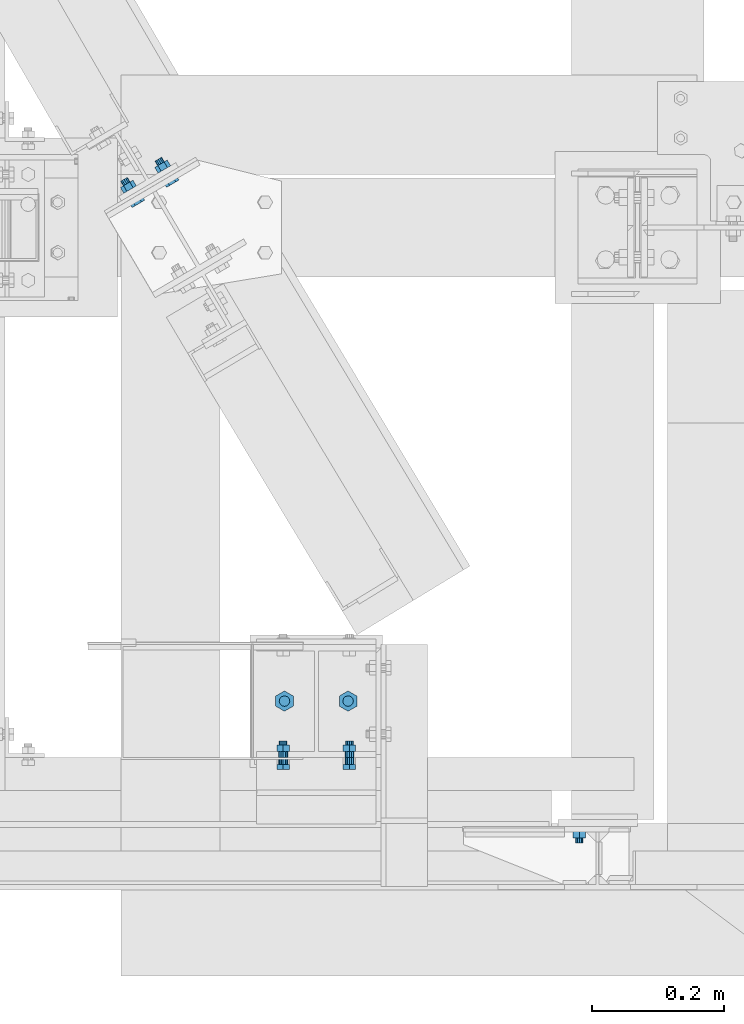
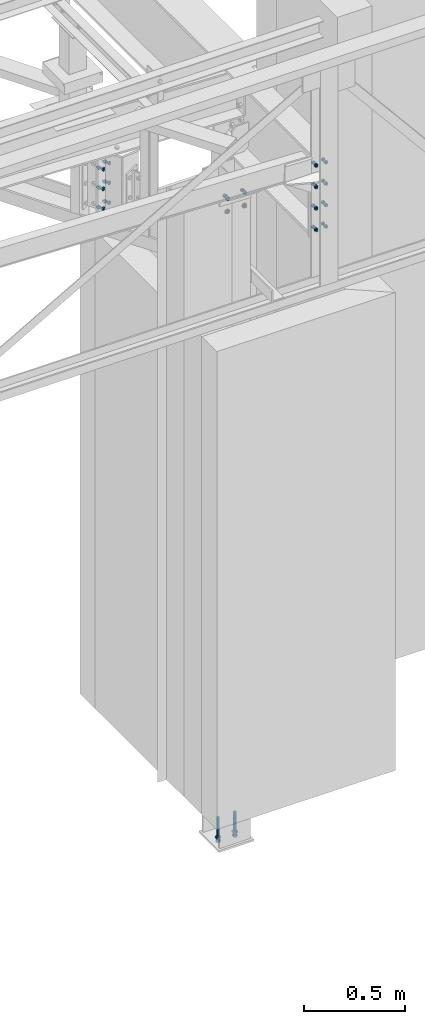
# One storey, part 11 of 3134: 4 mechanical fasteners, 3 elements without a shape of their own.
"""IFC2X3 building model written with IfcOpenShell, lengths in millimetres."""

from ifc_helpers import new_model, si_unit, frame, origin_with_axes, place, context, subcontext, project, spatial, faceted_brep, source, transform, mapped, material, type_object, element, aggregate, save


model = new_model("IFC2X3")

# Units and contexts
model_context = context("Model", 3, precision=1e-05, world=origin_with_axes())
body_context = subcontext(model_context, "Body", "Model", "MODEL_VIEW")
ifc_project = project(units=[si_unit("LENGTHUNIT", "METRE", prefix="MILLI"), si_unit("AREAUNIT", "SQUARE_METRE"), si_unit("VOLUMEUNIT", "CUBIC_METRE"), si_unit("MASSUNIT", "GRAM", prefix="KILO"), si_unit("TIMEUNIT", "SECOND"), si_unit("PLANEANGLEUNIT", "RADIAN"), si_unit("SOLIDANGLEUNIT", "STERADIAN"), si_unit("THERMODYNAMICTEMPERATUREUNIT", "DEGREE_CELSIUS"), si_unit("LUMINOUSINTENSITYUNIT", "LUMEN")], contexts=[model_context])

# Site, building, storey
site_placement = place(None, origin_with_axes())
site = spatial("IfcSite", under=ifc_project, at=site_placement, CompositionType="ELEMENT")
building_placement = place(site_placement, origin_with_axes())
building = spatial("IfcBuilding", under=site, at=building_placement, Name="Undefined", CompositionType="ELEMENT")
storey_placement = place(building_placement, origin_with_axes())
storey = spatial("IfcBuildingStorey", under=building, at=storey_placement, Name="Undefined", CompositionType="ELEMENT", Elevation=0.0)

# Assembly, mechanical fastener
assembly_1_placement = place(storey_placement, origin_with_axes())
assembly_1 = element("IfcElementAssembly", 1, at=assembly_1_placement, inside=storey, Name="HEA160", AssemblyPlace="NOTDEFINED", PredefinedType="RIGID_FRAME")
ifc_material_1 = material(Name="8.8")
mechanical_fastener_type = type_object("IfcMechanicalFastenerType", Name="Bolt assembly")
shared_shape_1 = source(origin_with_axes(), body_context, "Body", "Brep", [
    faceted_brep([(10.9696551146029, -17.0000000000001, 0.0), (5.48482755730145, -17.0000000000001, 9.5), (-5.48482755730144, -17.0000000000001, 9.5), (-10.9696551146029, -17.0000000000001, 1.34339530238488e-15), (-5.48482755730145, -17.0000000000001, -9.5), (5.48482755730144, -17.0000000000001, -9.50000000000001), (5.48482755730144, -9.00000000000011, -9.50000000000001), (-5.48482755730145, -9.00000000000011, -9.5), (-10.9696551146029, -9.00000000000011, 1.34339530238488e-15), (-5.48482755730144, -9.00000000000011, 9.5), (5.48482755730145, -9.00000000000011, 9.5), (10.9696551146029, -9.00000000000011, 0.0), (6.0, -9.00000000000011, 0.0), (5.19615242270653, -9.00000000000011, 3.00000000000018), (2.99999999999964, -9.00000000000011, 5.19615242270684), (-6.21801588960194e-13, -9.00000000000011, 6.0), (-3.00000000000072, -9.00000000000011, 5.19615242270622), (-5.19615242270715, -9.00000000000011, 2.9999999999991), (-6.0, -9.00000000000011, -1.24360317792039e-12), (-5.19615242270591, -9.00000000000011, -3.00000000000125), (-2.99999999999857, -9.00000000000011, -5.19615242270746), (1.85874342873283e-12, -9.00000000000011, -6.0), (3.00000000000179, -9.00000000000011, -5.1961524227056), (5.19615242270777, -9.00000000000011, -2.99999999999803), (5.19615242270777, 26.0, -2.99999999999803), (3.00000000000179, 26.0, -5.1961524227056), (1.85874342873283e-12, 26.0, -6.0), (-2.99999999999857, 26.0, -5.19615242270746), (-5.19615242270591, 26.0, -3.00000000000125), (-6.0, 26.0, -1.24360317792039e-12), (-5.19615242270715, 26.0, 2.9999999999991), (-3.00000000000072, 26.0, 5.19615242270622), (-6.21801588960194e-13, 26.0, 6.0), (2.99999999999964, 26.0, 5.19615242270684), (5.19615242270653, 26.0, 3.00000000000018), (6.0, 26.0, 0.0), (10.9696551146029, 8.0, 0.0), (5.48482755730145, 8.0, 9.5), (-5.48482755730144, 8.0, 9.5), (-10.9696551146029, 8.0, 1.34339530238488e-15), (-5.48482755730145, 8.0, -9.5), (5.48482755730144, 8.0, -9.50000000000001), (5.48482755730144, 18.0, -9.50000000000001), (-5.48482755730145, 18.0, -9.5), (-10.9696551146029, 18.0, 1.34339530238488e-15), (-5.48482755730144, 18.0, 9.5), (5.48482755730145, 18.0, 9.5), (10.9696551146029, 18.0, 0.0)], [[[0, 1, 2, 3, 4, 5]], [[6, 7, 8, 9, 10, 11]], [[0, 11, 10, 1]], [[1, 10, 9, 2]], [[2, 9, 8, 3]], [[3, 8, 7, 4]], [[4, 7, 6, 5]], [[5, 6, 11, 0]], [[12, 13, 14, 15, 16, 17, 18, 19, 20, 21, 22, 23]], [[24, 25, 26, 27, 28, 29, 30, 31, 32, 33, 34, 35]], [[12, 35, 34, 13]], [[13, 34, 33, 14]], [[14, 33, 32, 15]], [[15, 32, 31, 16]], [[16, 31, 30, 17]], [[17, 30, 29, 18]], [[18, 29, 28, 19]], [[19, 28, 27, 20]], [[20, 27, 26, 21]], [[21, 26, 25, 22]], [[22, 25, 24, 23]], [[23, 24, 35, 12]], [[36, 37, 38, 39, 40, 41]], [[42, 43, 44, 45, 46, 47]], [[36, 47, 46, 37]], [[37, 46, 45, 38]], [[38, 45, 44, 39]], [[39, 44, 43, 40]], [[40, 43, 42, 41]], [[41, 42, 47, 36]]]),
    faceted_brep([(7.0, -0.1, 0.0), (6.06217782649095, -0.1, 3.50000000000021), (3.49999999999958, -0.1, 6.06217782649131), (-7.25435187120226e-13, -0.1, 7.0), (-3.50000000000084, -0.1, 6.06217782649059), (-6.06217782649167, -0.1, 3.49999999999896), (-7.0, -0.1, -1.45087037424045e-12), (-6.06217782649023, -0.1, -3.50000000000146), (-3.49999999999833, -0.1, -6.06217782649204), (2.1685340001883e-12, -0.1, -7.0), (3.50000000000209, -0.1, -6.06217782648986), (6.0621778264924, -0.1, -3.4999999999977), (6.0621778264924, 8.0000000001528, -3.4999999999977), (3.50000000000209, 8.0000000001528, -6.06217782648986), (2.1685340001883e-12, 8.0000000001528, -7.0), (-3.49999999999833, 8.0000000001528, -6.06217782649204), (-6.06217782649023, 8.0000000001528, -3.50000000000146), (-7.0, 8.0000000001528, -1.45087037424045e-12), (-6.06217782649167, 8.0000000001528, 3.49999999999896), (-3.50000000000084, 8.0000000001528, 6.06217782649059), (-7.25435187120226e-13, 8.0000000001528, 7.0), (3.49999999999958, 8.0000000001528, 6.06217782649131), (6.06217782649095, 8.0000000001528, 3.50000000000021), (7.0, 8.0000000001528, 0.0), (7.0, -8.90000000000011, 0.0), (6.06217782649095, -8.90000000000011, 3.50000000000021), (3.49999999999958, -8.90000000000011, 6.06217782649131), (-7.25435187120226e-13, -8.90000000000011, 7.0), (-3.50000000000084, -8.90000000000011, 6.06217782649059), (-6.06217782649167, -8.90000000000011, 3.49999999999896), (-7.0, -8.90000000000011, -1.45087037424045e-12), (-6.06217782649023, -8.90000000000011, -3.50000000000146), (-3.49999999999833, -8.90000000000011, -6.06217782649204), (2.1685340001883e-12, -8.90000000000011, -7.0), (3.50000000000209, -8.90000000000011, -6.06217782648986), (6.0621778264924, -8.90000000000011, -3.4999999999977), (6.0621778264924, 0.0999999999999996, -3.4999999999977), (3.50000000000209, 0.0999999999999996, -6.06217782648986), (2.1685340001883e-12, 0.0999999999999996, -7.0), (-3.49999999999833, 0.0999999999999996, -6.06217782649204), (-6.06217782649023, 0.0999999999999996, -3.50000000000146), (-7.0, 0.0999999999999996, -1.45087037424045e-12), (-6.06217782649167, 0.0999999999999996, 3.49999999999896), (-3.50000000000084, 0.0999999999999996, 6.06217782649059), (-7.25435187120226e-13, 0.0999999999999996, 7.0), (3.49999999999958, 0.0999999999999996, 6.06217782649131), (6.06217782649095, 0.0999999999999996, 3.50000000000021), (7.0, 0.0999999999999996, 0.0)], [[[0, 1, 2, 3, 4, 5, 6, 7, 8, 9, 10, 11]], [[12, 13, 14, 15, 16, 17, 18, 19, 20, 21, 22, 23]], [[0, 23, 22, 1]], [[1, 22, 21, 2]], [[2, 21, 20, 3]], [[3, 20, 19, 4]], [[4, 19, 18, 5]], [[5, 18, 17, 6]], [[6, 17, 16, 7]], [[7, 16, 15, 8]], [[8, 15, 14, 9]], [[9, 14, 13, 10]], [[10, 13, 12, 11]], [[11, 12, 23, 0]], [[24, 25, 26, 27, 28, 29, 30, 31, 32, 33, 34, 35]], [[36, 37, 38, 39, 40, 41, 42, 43, 44, 45, 46, 47]], [[24, 47, 46, 25]], [[25, 46, 45, 26]], [[26, 45, 44, 27]], [[27, 44, 43, 28]], [[28, 43, 42, 29]], [[29, 42, 41, 30]], [[30, 41, 40, 31]], [[31, 40, 39, 32]], [[32, 39, 38, 33]], [[33, 38, 37, 34]], [[34, 37, 36, 35]], [[35, 36, 47, 24]]]),
])
mechanical_fastener_1_placement = place(assembly_1_placement, frame((8532.91634965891, 10980.3242627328, 3170.0), z_axis=(0.0, 0.0, 1.0), x_axis=(0.862153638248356, 0.506646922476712, 0.0)))
mechanical_fastener_1 = element("IfcMechanicalFastener", 2, at=mechanical_fastener_1_placement, type_object=mechanical_fastener_type, material=ifc_material_1, Name="Bolt assembly", NominalDiameter=12.0, NominalLength=35.0, context=body_context, shape_type="MappedRepresentation", body=[
    mapped(shared_shape_1, transform((0.0, 0.0, -120.0))),
    mapped(shared_shape_1, transform((60.0000000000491, 0.0, -120.0))),
    mapped(shared_shape_1, transform((0.0, 0.0, 0.0))),
    mapped(shared_shape_1, transform((59.9999999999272, 0.0, 5.40239852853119e-10))),
    mapped(shared_shape_1, transform((0.0, 0.0, 120.0))),
    mapped(shared_shape_1, transform((60.0000000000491, 0.0, 120.0))),
])
aggregate(assembly_1, [mechanical_fastener_1])

assembly_2_placement = place(storey_placement, origin_with_axes())
assembly_2 = element("IfcElementAssembly", 3, at=assembly_2_placement, inside=storey, Name="HEA180", AssemblyPlace="NOTDEFINED", PredefinedType="RIGID_FRAME")
shared_shape_2 = source(origin_with_axes(), body_context, "Body", "Brep", [
    faceted_brep([(10.9696551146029, -18.0, 0.0), (5.48482755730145, -18.0, 9.5), (-5.48482755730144, -18.0, 9.5), (-10.9696551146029, -18.0, 1.34339530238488e-15), (-5.48482755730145, -18.0, -9.5), (5.48482755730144, -18.0, -9.50000000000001), (5.48482755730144, -10.0, -9.50000000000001), (-5.48482755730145, -10.0, -9.5), (-10.9696551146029, -10.0, 1.34339530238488e-15), (-5.48482755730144, -10.0, 9.5), (5.48482755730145, -10.0, 9.5), (10.9696551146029, -10.0, 0.0), (6.0, -10.0, 0.0), (5.19615242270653, -10.0, 3.00000000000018), (2.99999999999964, -10.0, 5.19615242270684), (-6.21801588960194e-13, -10.0, 6.0), (-3.00000000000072, -10.0, 5.19615242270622), (-5.19615242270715, -10.0, 2.9999999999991), (-6.0, -10.0, -1.24360317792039e-12), (-5.19615242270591, -10.0, -3.00000000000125), (-2.99999999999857, -10.0, -5.19615242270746), (1.85874342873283e-12, -10.0, -6.0), (3.00000000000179, -10.0, -5.1961524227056), (5.19615242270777, -10.0, -2.99999999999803), (5.19615242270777, 24.9999999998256, -2.99999999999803), (3.00000000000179, 24.9999999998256, -5.1961524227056), (1.85874342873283e-12, 24.9999999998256, -6.0), (-2.99999999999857, 24.9999999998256, -5.19615242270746), (-5.19615242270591, 24.9999999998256, -3.00000000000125), (-6.0, 24.9999999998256, -1.24360317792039e-12), (-5.19615242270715, 24.9999999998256, 2.9999999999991), (-3.00000000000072, 24.9999999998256, 5.19615242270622), (-6.21801588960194e-13, 24.9999999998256, 6.0), (2.99999999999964, 24.9999999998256, 5.19615242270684), (5.19615242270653, 24.9999999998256, 3.00000000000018), (6.0, 24.9999999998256, 0.0), (10.9696551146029, 9.5, 0.0), (5.48482755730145, 9.5, 9.5), (-5.48482755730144, 9.5, 9.5), (-10.9696551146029, 9.5, 1.34339530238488e-15), (-5.48482755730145, 9.5, -9.5), (5.48482755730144, 9.5, -9.50000000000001), (5.48482755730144, 19.5, -9.50000000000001), (-5.48482755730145, 19.5, -9.5), (-10.9696551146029, 19.5, 1.34339530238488e-15), (-5.48482755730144, 19.5, 9.5), (5.48482755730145, 19.5, 9.5), (10.9696551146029, 19.5, 0.0)], [[[0, 1, 2, 3, 4, 5]], [[6, 7, 8, 9, 10, 11]], [[0, 11, 10, 1]], [[1, 10, 9, 2]], [[2, 9, 8, 3]], [[3, 8, 7, 4]], [[4, 7, 6, 5]], [[5, 6, 11, 0]], [[12, 13, 14, 15, 16, 17, 18, 19, 20, 21, 22, 23]], [[24, 25, 26, 27, 28, 29, 30, 31, 32, 33, 34, 35]], [[12, 35, 34, 13]], [[13, 34, 33, 14]], [[14, 33, 32, 15]], [[15, 32, 31, 16]], [[16, 31, 30, 17]], [[17, 30, 29, 18]], [[18, 29, 28, 19]], [[19, 28, 27, 20]], [[20, 27, 26, 21]], [[21, 26, 25, 22]], [[22, 25, 24, 23]], [[23, 24, 35, 12]], [[36, 37, 38, 39, 40, 41]], [[42, 43, 44, 45, 46, 47]], [[36, 47, 46, 37]], [[37, 46, 45, 38]], [[38, 45, 44, 39]], [[39, 44, 43, 40]], [[40, 43, 42, 41]], [[41, 42, 47, 36]]]),
    faceted_brep([(14.0, -9.9, 0.0), (13.4671567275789, -9.9, 2.6787840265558), (11.9497474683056, -9.9, 4.94974746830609), (9.67878402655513, -9.9, 6.46715672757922), (-7.00000000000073, -9.9, 7.0), (-10.5000000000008, -9.9, 6.06217782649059), (-13.0621778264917, -9.9, 3.49999999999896), (-14.0, -9.9, -1.45087037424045e-12), (-13.0621778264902, -9.9, -3.50000000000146), (-10.4999999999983, -9.9, -6.06217782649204), (-6.99999999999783, -9.9, -7.0), (7.00000000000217, -9.9, -7.0), (10.5000000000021, -9.9, -6.06217782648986), (13.0621778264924, -9.9, -3.4999999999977), (14.0, 0.0999989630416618, 0.0), (13.0621778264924, 0.0999989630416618, -3.4999999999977), (10.5000000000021, 0.0999989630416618, -6.06217782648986), (7.00000000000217, 0.0999989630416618, -7.0), (-6.99999999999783, 0.0999989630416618, -7.0), (-10.4999999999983, 0.0999989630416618, -6.06217782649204), (-13.0621778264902, 0.0999989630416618, -3.50000000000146), (-14.0, 0.0999989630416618, -1.45087037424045e-12), (-13.0621778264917, 0.0999989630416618, 3.49999999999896), (-10.5000000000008, 0.0999989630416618, 6.06217782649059), (-7.00000000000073, 0.0999989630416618, 7.0), (9.67878402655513, 0.0999989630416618, 6.46715672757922), (11.9497474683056, 0.0999989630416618, 4.94974746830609), (13.4671567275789, 0.0999989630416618, 2.6787840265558), (7.0, -0.1, 0.0), (6.06217782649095, -0.1, 3.50000000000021), (3.49999999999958, -0.1, 6.06217782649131), (-7.25435187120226e-13, -0.1, 7.0), (-3.50000000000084, -0.1, 6.06217782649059), (-6.06217782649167, -0.1, 3.49999999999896), (-7.0, -0.1, -1.45087037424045e-12), (-6.06217782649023, -0.1, -3.50000000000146), (-3.49999999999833, -0.1, -6.06217782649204), (2.1685340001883e-12, -0.1, -7.0), (3.50000000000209, -0.1, -6.06217782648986), (6.0621778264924, -0.1, -3.4999999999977), (6.0621778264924, 9.5, -3.4999999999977), (3.50000000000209, 9.5, -6.06217782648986), (2.1685340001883e-12, 9.5, -7.0), (-3.49999999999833, 9.5, -6.06217782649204), (-6.06217782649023, 9.5, -3.50000000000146), (-7.0, 9.5, -1.45087037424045e-12), (-6.06217782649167, 9.5, 3.49999999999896), (-3.50000000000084, 9.5, 6.06217782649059), (-7.25435187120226e-13, 9.5, 7.0), (3.49999999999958, 9.5, 6.06217782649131), (6.06217782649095, 9.5, 3.50000000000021), (7.0, 9.5, 0.0)], [[[0, 1, 2, 3, 4, 5, 6, 7, 8, 9, 10, 11, 12, 13]], [[14, 15, 16, 17, 18, 19, 20, 21, 22, 23, 24, 25, 26, 27]], [[0, 14, 27, 1]], [[1, 27, 26, 2]], [[2, 26, 25, 3]], [[3, 25, 24, 4]], [[4, 24, 23, 5]], [[5, 23, 22, 6]], [[6, 22, 21, 7]], [[7, 21, 20, 8]], [[8, 20, 19, 9]], [[9, 19, 18, 10]], [[10, 18, 17, 11]], [[11, 17, 16, 12]], [[12, 16, 15, 13]], [[13, 15, 14, 0]], [[28, 29, 30, 31, 32, 33, 34, 35, 36, 37, 38, 39]], [[40, 41, 42, 43, 44, 45, 46, 47, 48, 49, 50, 51]], [[28, 51, 50, 29]], [[29, 50, 49, 30]], [[30, 49, 48, 31]], [[31, 48, 47, 32]], [[32, 47, 46, 33]], [[33, 46, 45, 34]], [[34, 45, 44, 35]], [[35, 44, 43, 36]], [[36, 43, 42, 37]], [[37, 42, 41, 38]], [[38, 41, 40, 39]], [[39, 40, 51, 28]]]),
])
mechanical_fastener_2_placement = place(assembly_2_placement, frame((8810.0, 10129.5, 3551.53519646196), z_axis=(-1.0, 0.0, 0.0), x_axis=(0.0, 0.0, 1.0)))
mechanical_fastener_2 = element("IfcMechanicalFastener", 4, at=mechanical_fastener_2_placement, type_object=mechanical_fastener_type, material=ifc_material_1, Name="Bolt assembly", NominalDiameter=12.0, NominalLength=35.0, context=body_context, shape_type="MappedRepresentation", body=[
    mapped(shared_shape_2, transform((0.0, 0.0, -50.0))),
    mapped(shared_shape_2, transform((0.0, 0.0, 50.0))),
])

assembly_3_placement = place(storey_placement, origin_with_axes())
assembly_3 = element("IfcElementAssembly", 5, at=assembly_3_placement, inside=storey, Name="UPN100", AssemblyPlace="NOTDEFINED", PredefinedType="RIGID_FRAME")
shared_shape_3 = source(origin_with_axes(), body_context, "Body", "Brep", [
    faceted_brep([(10.9696551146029, -18.0, 0.0), (5.48482755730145, -18.0, 9.5), (-5.48482755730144, -18.0, 9.5), (-10.9696551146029, -18.0, 1.34339530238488e-15), (-5.48482755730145, -18.0, -9.5), (5.48482755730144, -18.0, -9.50000000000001), (5.48482755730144, -10.0, -9.50000000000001), (-5.48482755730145, -10.0, -9.5), (-10.9696551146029, -10.0, 1.34339530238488e-15), (-5.48482755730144, -10.0, 9.5), (5.48482755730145, -10.0, 9.5), (10.9696551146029, -10.0, 0.0), (6.0, -10.0, 0.0), (5.19615242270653, -10.0, 3.00000000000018), (2.99999999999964, -10.0, 5.19615242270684), (-6.21801588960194e-13, -10.0, 6.0), (-3.00000000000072, -10.0, 5.19615242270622), (-5.19615242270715, -10.0, 2.9999999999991), (-6.0, -10.0, -1.24360317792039e-12), (-5.19615242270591, -10.0, -3.00000000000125), (-2.99999999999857, -10.0, -5.19615242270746), (1.85874342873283e-12, -10.0, -6.0), (3.00000000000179, -10.0, -5.1961524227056), (5.19615242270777, -10.0, -2.99999999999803), (5.19615242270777, 24.9999999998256, -2.99999999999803), (3.00000000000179, 24.9999999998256, -5.1961524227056), (1.85874342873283e-12, 24.9999999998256, -6.0), (-2.99999999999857, 24.9999999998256, -5.19615242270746), (-5.19615242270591, 24.9999999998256, -3.00000000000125), (-6.0, 24.9999999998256, -1.24360317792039e-12), (-5.19615242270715, 24.9999999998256, 2.9999999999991), (-3.00000000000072, 24.9999999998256, 5.19615242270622), (-6.21801588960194e-13, 24.9999999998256, 6.0), (2.99999999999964, 24.9999999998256, 5.19615242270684), (5.19615242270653, 24.9999999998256, 3.00000000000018), (6.0, 24.9999999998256, 0.0), (10.9696551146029, 8.0, 0.0), (5.48482755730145, 8.0, 9.5), (-5.48482755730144, 8.0, 9.5), (-10.9696551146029, 8.0, 1.34339530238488e-15), (-5.48482755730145, 8.0, -9.5), (5.48482755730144, 8.0, -9.50000000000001), (5.48482755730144, 18.0, -9.50000000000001), (-5.48482755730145, 18.0, -9.5), (-10.9696551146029, 18.0, 1.34339530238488e-15), (-5.48482755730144, 18.0, 9.5), (5.48482755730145, 18.0, 9.5), (10.9696551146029, 18.0, 0.0)], [[[0, 1, 2, 3, 4, 5]], [[6, 7, 8, 9, 10, 11]], [[0, 11, 10, 1]], [[1, 10, 9, 2]], [[2, 9, 8, 3]], [[3, 8, 7, 4]], [[4, 7, 6, 5]], [[5, 6, 11, 0]], [[12, 13, 14, 15, 16, 17, 18, 19, 20, 21, 22, 23]], [[24, 25, 26, 27, 28, 29, 30, 31, 32, 33, 34, 35]], [[12, 35, 34, 13]], [[13, 34, 33, 14]], [[14, 33, 32, 15]], [[15, 32, 31, 16]], [[16, 31, 30, 17]], [[17, 30, 29, 18]], [[18, 29, 28, 19]], [[19, 28, 27, 20]], [[20, 27, 26, 21]], [[21, 26, 25, 22]], [[22, 25, 24, 23]], [[23, 24, 35, 12]], [[36, 37, 38, 39, 40, 41]], [[42, 43, 44, 45, 46, 47]], [[36, 47, 46, 37]], [[37, 46, 45, 38]], [[38, 45, 44, 39]], [[39, 44, 43, 40]], [[40, 43, 42, 41]], [[41, 42, 47, 36]]]),
    faceted_brep([(7.0, -9.89999913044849, 0.0), (6.06217782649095, -9.89999913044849, 3.50000000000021), (3.49999999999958, -9.89999913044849, 6.06217782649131), (-7.25435187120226e-13, -9.89999913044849, 7.0), (-3.50000000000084, -9.89999913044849, 6.06217782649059), (-6.06217782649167, -9.89999913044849, 3.49999999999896), (-7.0, -9.89999913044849, -1.45087037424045e-12), (-6.06217782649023, -9.89999913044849, -3.50000000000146), (-3.49999999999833, -9.89999913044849, -6.06217782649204), (2.1685340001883e-12, -9.89999913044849, -7.0), (3.50000000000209, -9.89999913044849, -6.06217782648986), (6.0621778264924, -9.89999913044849, -3.4999999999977), (6.0621778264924, 0.0999999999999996, -3.4999999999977), (3.50000000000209, 0.0999999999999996, -6.06217782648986), (2.1685340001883e-12, 0.0999999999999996, -7.0), (-3.49999999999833, 0.0999999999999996, -6.06217782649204), (-6.06217782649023, 0.0999999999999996, -3.50000000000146), (-7.0, 0.0999999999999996, -1.45087037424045e-12), (-6.06217782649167, 0.0999999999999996, 3.49999999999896), (-3.50000000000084, 0.0999999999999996, 6.06217782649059), (-7.25435187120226e-13, 0.0999999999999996, 7.0), (3.49999999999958, 0.0999999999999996, 6.06217782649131), (6.06217782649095, 0.0999999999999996, 3.50000000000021), (7.0, 0.0999999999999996, 0.0), (7.0, -0.1, 0.0), (6.06217782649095, -0.1, 3.50000000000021), (3.49999999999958, -0.1, 6.06217782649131), (-7.25435187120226e-13, -0.1, 7.0), (-3.50000000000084, -0.1, 6.06217782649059), (-6.06217782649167, -0.1, 3.49999999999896), (-7.0, -0.1, -1.45087037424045e-12), (-6.06217782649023, -0.1, -3.50000000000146), (-3.49999999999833, -0.1, -6.06217782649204), (2.1685340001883e-12, -0.1, -7.0), (3.50000000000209, -0.1, -6.06217782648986), (6.0621778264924, -0.1, -3.4999999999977), (6.0621778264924, 8.0000000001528, -3.4999999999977), (3.50000000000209, 8.0000000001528, -6.06217782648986), (2.1685340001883e-12, 8.0000000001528, -7.0), (-3.49999999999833, 8.0000000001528, -6.06217782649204), (-6.06217782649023, 8.0000000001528, -3.50000000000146), (-7.0, 8.0000000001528, -1.45087037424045e-12), (-6.06217782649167, 8.0000000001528, 3.49999999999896), (-3.50000000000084, 8.0000000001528, 6.06217782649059), (-7.25435187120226e-13, 8.0000000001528, 7.0), (3.49999999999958, 8.0000000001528, 6.06217782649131), (6.06217782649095, 8.0000000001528, 3.50000000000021), (7.0, 8.0000000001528, 0.0)], [[[0, 1, 2, 3, 4, 5, 6, 7, 8, 9, 10, 11]], [[12, 13, 14, 15, 16, 17, 18, 19, 20, 21, 22, 23]], [[0, 23, 22, 1]], [[1, 22, 21, 2]], [[2, 21, 20, 3]], [[3, 20, 19, 4]], [[4, 19, 18, 5]], [[5, 18, 17, 6]], [[6, 17, 16, 7]], [[7, 16, 15, 8]], [[8, 15, 14, 9]], [[9, 14, 13, 10]], [[10, 13, 12, 11]], [[11, 12, 23, 0]], [[24, 25, 26, 27, 28, 29, 30, 31, 32, 33, 34, 35]], [[36, 37, 38, 39, 40, 41, 42, 43, 44, 45, 46, 47]], [[24, 47, 46, 25]], [[25, 46, 45, 26]], [[26, 45, 44, 27]], [[27, 44, 43, 28]], [[28, 43, 42, 29]], [[29, 42, 41, 30]], [[30, 41, 40, 31]], [[31, 40, 39, 32]], [[32, 39, 38, 33]], [[33, 38, 37, 34]], [[34, 37, 36, 35]], [[35, 36, 47, 24]]]),
])
mechanical_fastener_3_placement = place(assembly_3_placement, frame((9235.0, 10026.0, 3659.67), z_axis=(-1.0, 0.0, 0.0), x_axis=(0.0, 0.0, -1.0)))
mechanical_fastener_3 = element("IfcMechanicalFastener", 6, at=mechanical_fastener_3_placement, type_object=mechanical_fastener_type, material=ifc_material_1, Name="Bolt assembly", NominalDiameter=12.0, NominalLength=35.0, context=body_context, shape_type="MappedRepresentation", body=[
    mapped(shared_shape_3, transform((0.0, 0.0, -28.0))),
    mapped(shared_shape_3, transform((130.0, 0.0, -28.0))),
    mapped(shared_shape_3, transform((260.0, 0.0, -28.0))),
    mapped(shared_shape_3, transform((390.0, 0.0, -28.0))),
    mapped(shared_shape_3, transform((0.0, 0.0, 28.0))),
    mapped(shared_shape_3, transform((130.0, 0.0, 28.0))),
    mapped(shared_shape_3, transform((260.0, 0.0, 28.0))),
    mapped(shared_shape_3, transform((390.0, 0.0, 28.0))),
])
aggregate(assembly_3, [mechanical_fastener_3])

# Mechanical fastener
ifc_material_2 = material(Name="HILTI-HSA")
shared_shape_4 = source(origin_with_axes(), body_context, "Body", "Brep", [
    faceted_brep([(13.856406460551, -10.56, 0.0), (6.92820323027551, -10.56, 12.0), (-6.92820323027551, -10.56, 12.0), (-13.856406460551, -10.56, 1.69692038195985e-15), (-6.92820323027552, -10.56, -12.0), (6.9282032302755, -10.56, -12.0), (6.9282032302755, 0.0, -12.0), (-6.92820323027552, 0.0, -12.0), (-13.856406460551, 0.0, 1.69692038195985e-15), (-6.92820323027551, 0.0, 12.0), (6.92820323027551, 0.0, 12.0), (13.856406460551, 0.0, 0.0), (8.0, 0.0, 0.0), (6.92820323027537, 0.0, 4.00000000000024), (3.99999999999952, 0.0, 6.92820323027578), (-8.29068785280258e-13, 0.0, 8.0), (-4.00000000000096, 0.0, 6.92820323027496), (-6.9282032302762, 0.0, 3.99999999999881), (-8.0, 0.0, -1.65813757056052e-12), (-6.92820323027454, 0.0, -4.00000000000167), (-3.99999999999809, 0.0, -6.92820323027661), (2.47832457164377e-12, 0.0, -8.0), (4.00000000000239, 0.0, -6.92820323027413), (6.92820323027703, 0.0, -3.99999999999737), (6.92820323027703, 140.0, -3.99999999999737), (4.00000000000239, 140.0, -6.92820323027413), (2.47832457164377e-12, 140.0, -8.0), (-3.99999999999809, 140.0, -6.92820323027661), (-6.92820323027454, 140.0, -4.00000000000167), (-8.0, 140.0, -1.65813757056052e-12), (-6.9282032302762, 140.0, 3.99999999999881), (-4.00000000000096, 140.0, 6.92820323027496), (-8.29068785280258e-13, 140.0, 8.0), (3.99999999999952, 140.0, 6.92820323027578), (6.92820323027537, 140.0, 4.00000000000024), (8.0, 140.0, 0.0), (15.3344231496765, 12.0, 0.0), (7.66721157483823, 12.0, 13.28), (-7.66721157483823, 12.0, 13.28), (-15.3344231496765, 12.0, 1.87792522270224e-15), (-7.66721157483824, 12.0, -13.28), (7.66721157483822, 12.0, -13.28), (7.66721157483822, 22.56, -13.28), (-7.66721157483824, 22.56, -13.28), (-15.3344231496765, 22.56, 1.87792522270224e-15), (-7.66721157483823, 22.56, 13.28), (7.66721157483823, 22.56, 13.28), (15.3344231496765, 22.56, 0.0)], [[[0, 1, 2, 3, 4, 5]], [[6, 7, 8, 9, 10, 11]], [[0, 11, 10, 1]], [[1, 10, 9, 2]], [[2, 9, 8, 3]], [[3, 8, 7, 4]], [[4, 7, 6, 5]], [[5, 6, 11, 0]], [[12, 13, 14, 15, 16, 17, 18, 19, 20, 21, 22, 23]], [[24, 25, 26, 27, 28, 29, 30, 31, 32, 33, 34, 35]], [[12, 35, 34, 13]], [[13, 34, 33, 14]], [[14, 33, 32, 15]], [[15, 32, 31, 16]], [[16, 31, 30, 17]], [[17, 30, 29, 18]], [[18, 29, 28, 19]], [[19, 28, 27, 20]], [[20, 27, 26, 21]], [[21, 26, 25, 22]], [[22, 25, 24, 23]], [[23, 24, 35, 12]], [[36, 37, 38, 39, 40, 41]], [[42, 43, 44, 45, 46, 47]], [[36, 47, 46, 37]], [[37, 46, 45, 38]], [[38, 45, 44, 39]], [[39, 44, 43, 40]], [[40, 43, 42, 41]], [[41, 42, 47, 36]]]),
    faceted_brep([(9.0, -3.46568413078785e-07, 0.0), (7.79422863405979, -3.46568413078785e-07, 4.50000000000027), (4.49999999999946, -3.46568413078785e-07, 7.79422863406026), (-9.3270238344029e-13, -3.46568413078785e-07, 9.0), (-4.50000000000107, -3.46568413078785e-07, 7.79422863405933), (-7.79422863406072, -3.46568413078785e-07, 4.49999999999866), (-9.0, -3.46568413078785e-07, -1.86540476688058e-12), (-7.79422863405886, -3.46568413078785e-07, -4.50000000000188), (-4.49999999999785, -3.46568413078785e-07, -7.79422863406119), (2.78811514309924e-12, -3.46568413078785e-07, -9.0), (4.50000000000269, -3.46568413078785e-07, -7.7942286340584), (7.79422863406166, -3.46568413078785e-07, -4.49999999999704), (7.79422863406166, 12.1, -4.49999999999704), (4.50000000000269, 12.1, -7.7942286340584), (2.78811514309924e-12, 12.1, -9.0), (-4.49999999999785, 12.1, -7.79422863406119), (-7.79422863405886, 12.1, -4.50000000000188), (-9.0, 12.1, -1.86540476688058e-12), (-7.79422863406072, 12.1, 4.49999999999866), (-4.50000000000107, 12.1, 7.79422863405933), (-9.3270238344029e-13, 12.1, 9.0), (4.49999999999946, 12.1, 7.79422863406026), (7.79422863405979, 12.1, 4.50000000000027), (9.0, 12.1, 0.0)], [[[0, 1, 2, 3, 4, 5, 6, 7, 8, 9, 10, 11]], [[12, 13, 14, 15, 16, 17, 18, 19, 20, 21, 22, 23]], [[0, 23, 22, 1]], [[1, 22, 21, 2]], [[2, 21, 20, 3]], [[3, 20, 19, 4]], [[4, 19, 18, 5]], [[5, 18, 17, 6]], [[6, 17, 16, 7]], [[7, 16, 15, 8]], [[8, 15, 14, 9]], [[9, 14, 13, 10]], [[10, 13, 12, 11]], [[11, 12, 23, 0]]]),
])
mechanical_fastener_4_placement = place(assembly_2_placement, frame((8810.0, 10215.0, -400.0), z_axis=(-1.0, 0.0, 0.0), x_axis=(0.0, -1.0, 0.0)))
mechanical_fastener_4 = element("IfcMechanicalFastener", 7, at=mechanical_fastener_4_placement, type_object=mechanical_fastener_type, material=ifc_material_2, Name="Bolt assembly", NominalDiameter=16.0, NominalLength=140.0, context=body_context, shape_type="MappedRepresentation", body=[
    mapped(shared_shape_4, transform((0.0, 0.0, -48.0))),
    mapped(shared_shape_4, transform((0.0, 0.0, 48.0))),
])

aggregate(assembly_2, [mechanical_fastener_2, mechanical_fastener_4])

save(model, "model.ifc")
